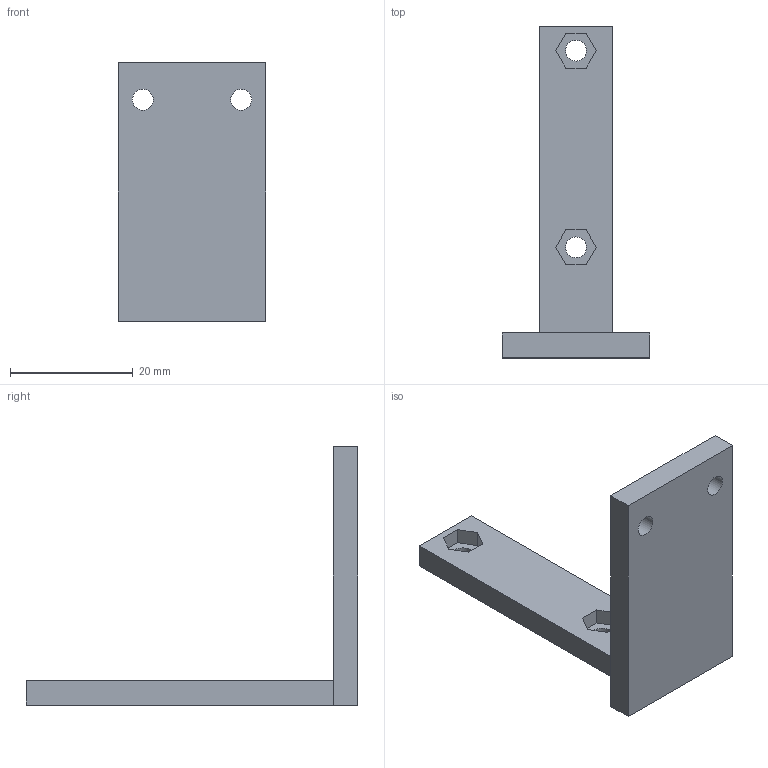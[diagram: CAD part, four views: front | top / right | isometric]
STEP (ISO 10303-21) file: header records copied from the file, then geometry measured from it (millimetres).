
FILE_DESCRIPTION(('Open CASCADE Model'),'2;1');
FILE_NAME('Open CASCADE Shape Model','2026-11-26T11:36:20',('Author'),( 'Open CASCADE'),'Open CASCADE STEP processor 8.0','build123d', 'Unknown');
FILE_SCHEMA(('AUTOMOTIVE_DESIGN { 1 0 10303 214 1 1 1 1 }'));
Length unit declared in the file: millimetre
Products named in the file (2): =>[0:1:1:2]; COMPOUND
Assembly tree (1 placements, depth 2):
  =>[0:1:1:2]
    COMPOUND
Bounding box: 24 x 54 x 42 mm (x, y, z)
Volume: 6187.6 mm3; surface area: 4289.4 mm2
Topology: 1 solids, 1 shells, 28 faces, 72 edges, 48 vertices
Faces by surface type: plane 24, cylinder 4
Full cylindrical faces by diameter (mm): 3.4 x4
Entity records: 1818 total; most frequent: CARTESIAN_POINT 300, DIRECTION 278, LINE 194, VECTOR 194, ORIENTED_EDGE 144, PCURVE 144, DEFINITIONAL_REPRESENTATION 144, EDGE_CURVE 72
